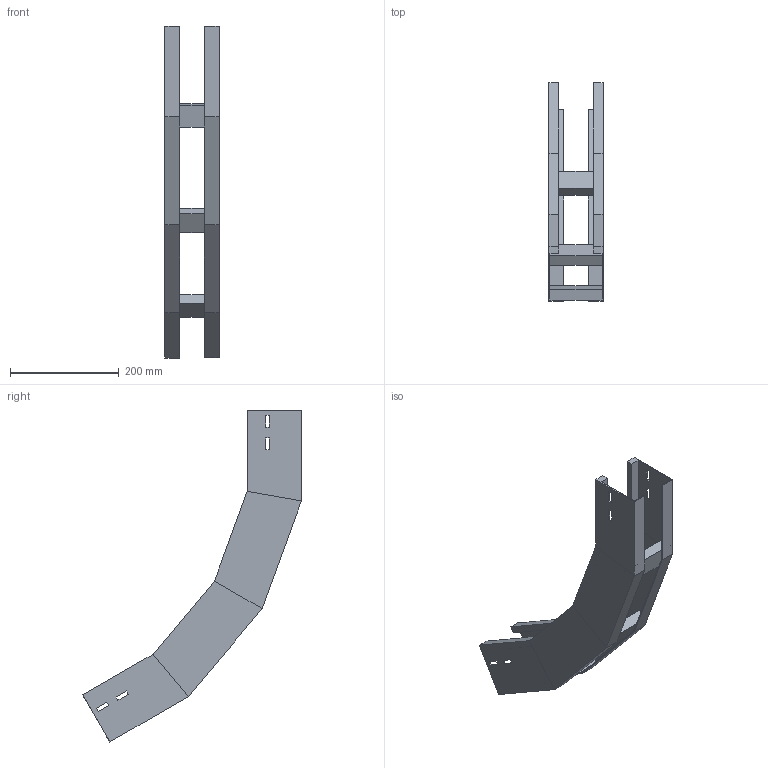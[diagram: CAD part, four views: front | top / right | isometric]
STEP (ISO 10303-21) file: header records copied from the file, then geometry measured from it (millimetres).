
FILE_DESCRIPTION (( 'STEP AP214' ), '1' );
FILE_NAME ('B2X40B5D100XX.step', '2025-03-20T10:13:18', ( '' ), ( '' ), 'SwSTEP 2.0', 'SolidWorks 2023', '' );
FILE_SCHEMA (( 'AUTOMOTIVE_DESIGN' ));
Length unit declared in the file: millimetre
Products named in the file (3): LONGH.SALITA_60°_H100_R500; TRAVERSINO_100; B2X40B5D100XX
Assembly tree (5 placements, depth 2):
  B2X40B5D100XX
    LONGH.SALITA_60°_H100_R500  x2
    TRAVERSINO_100  x3
Bounding box: 100 x 402.87 x 611.18 mm (x, y, z)
Volume: 840550.8 mm3; surface area: 444891.1 mm2
Topology: 5 solids, 5 shells, 118 faces, 276 edges, 168 vertices
Faces by surface type: plane 118
Entity records: 1672 total; most frequent: CARTESIAN_POINT 276, ORIENTED_EDGE 264, DIRECTION 260, EDGE_CURVE 132, LINE 132, VECTOR 132, VERTEX_POINT 80, AXIS2_PLACEMENT_3D 64
